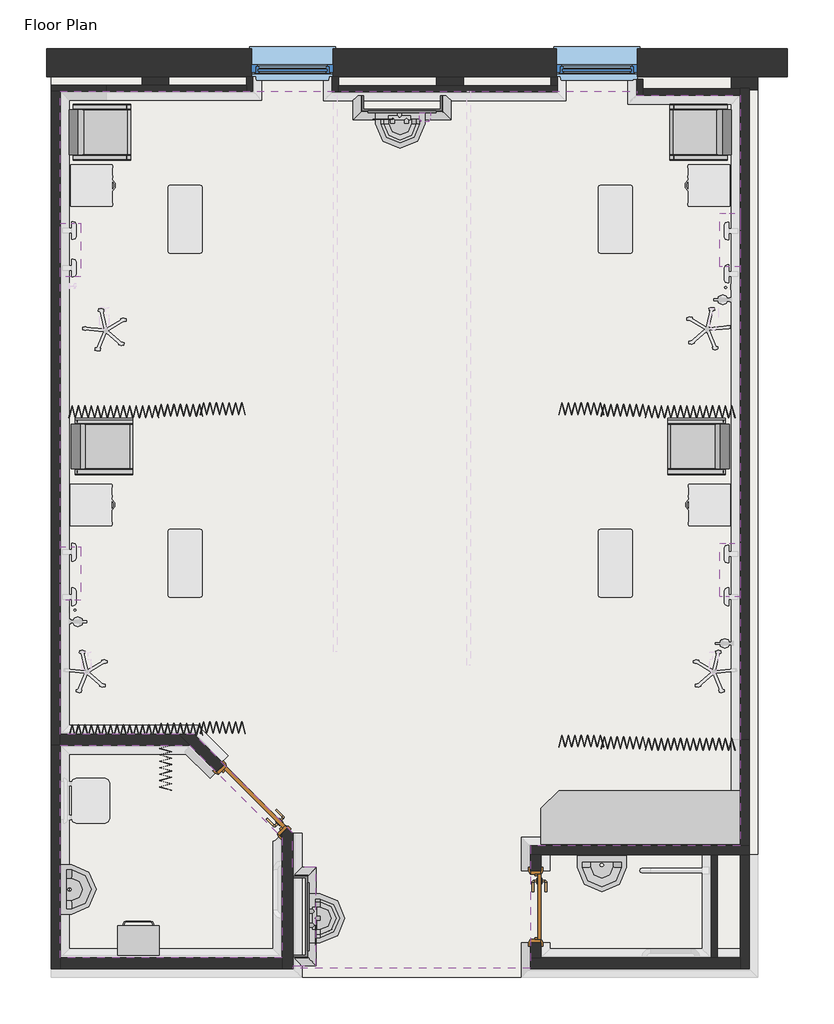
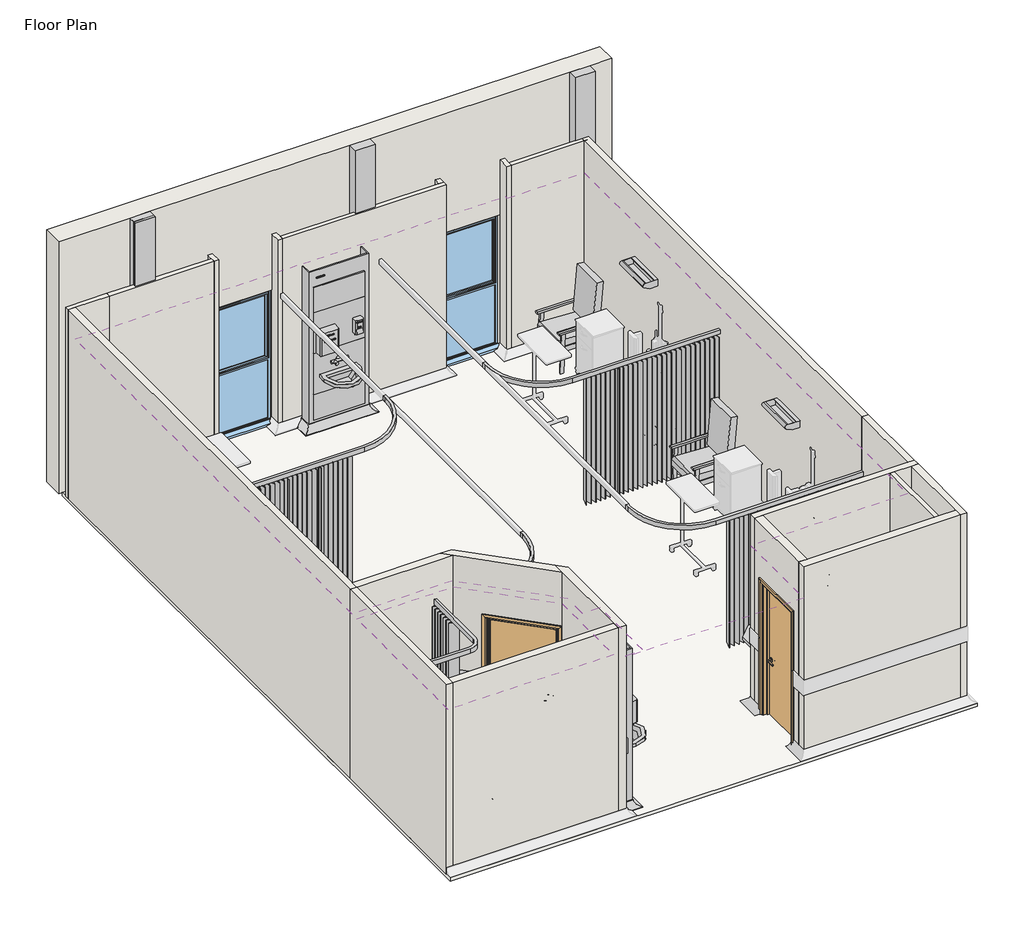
# One storey, part 1 of 3: 22 walls, 16 furniture elements, 6 flow terminals, 4 columns, 4 light fixtures, 2 coverings, 2 doors, 2 windows, 1 slab.
"""IFC4 building model written with IfcOpenShell, lengths in millimetres."""

from ifc_helpers import new_model, si_unit, frame, origin, place, context, project, spatial, polyline, circle_curve, outline, extrude, faceted_brep, transform, mapped, element, save
from ifc_brep_helpers import plane_surface, cylinder_surface, advanced_brep
from components import doors_intsgl_1_1010x2110mm_0e4fc7ca, doors_intsgl_1_810x2110mm_42a51698, flow_terminal_1693ed64, flow_terminal_004a381b, flow_terminal_30861e1c, furniture_5b125ba6, furniture_166ce8d1, furniture_26d36cfe, furniture_53b4b269, furniture_c6a9ce10, furniture_a9c8da33, furniture_eb258ce7, furniture_a4beb444, furniture_01c9675c, nurse_station2_nurse_station_fc5f2db9, type_1_dfacdb5c, windows_composite_910x2110mm_37af9662

model = new_model("IFC4")

# Units and contexts
model_context = context("Model", 3, world=origin())
ifc_project = project(units=[si_unit("LENGTHUNIT", "METRE", prefix="MILLI")], contexts=[model_context])

# Site, building, storey
site = spatial("IfcSite", under=ifc_project)
building = spatial("IfcBuilding", under=site)
storey = spatial("IfcBuildingStorey", under=building, Name="Floor Plan", Elevation=0.0)

# Columns
placement = place(None, origin())
element("IfcColumn", 1, ObjectType="Columns_Rectangular : 300x300", at=placement, inside=storey, context=model_context, shape_type="SweptSolid", body=[
    extrude(outline(polyline([(-25.0704396, 4000.0), (118.6795604, 4000.0), (118.6795604, 0.0), (24.9295604, 0.0), (24.9295604, 3000.0), (-25.0704396, 3000.0), (-25.0704396, 4000.0)])), frame((44398.7297081, 0.0, 0.0), z_axis=(1.0, 0.0, 0.0), x_axis=(0.0, 1.0, 0.0)), (0.0, 0.0, 1.0), 300.0),
])
element("IfcColumn", 2, ObjectType="Columns_Rectangular : 300x300", at=placement, inside=storey, context=model_context, shape_type="SweptSolid", body=[
    extrude(outline(polyline([(-25.0704396, 4000.0), (118.6795604, 4000.0), (118.6795604, 0.0), (18.6795604, 0.0), (18.6795604, 3000.0), (-25.0704396, 3000.0), (-25.0704396, 4000.0)])), frame((47698.7297081, 0.0, 0.0), z_axis=(1.0, 0.0, 0.0), x_axis=(0.0, 1.0, 0.0)), (0.0, 0.0, 1.0), 300.0),
])
element("IfcColumn", 3, ObjectType="Columns_Rectangular : 300x300", at=placement, inside=storey, context=model_context, shape_type="Brep", body=[
    faceted_brep([(50998.7297081, -25.0704396, 4000.0), (51298.7297081, -25.0704396, 4000.0), (51298.7297081, 118.6795604, 4000.0), (50998.7297081, 118.6795604, 4000.0), (51298.7297081, 118.6795604, 0.0), (51298.7297081, -25.0704396, 0.0), (51198.7297081, -25.0704396, 0.0), (51198.7297081, -9.3204396, 0.0), (51098.7297081, -9.3204396, 0.0), (51098.7297081, -18.3204396, 0.0), (50998.7297081, -18.3204396, 0.0), (50998.7297081, 118.6795604, 0.0), (50998.7297081, -18.3204396, 3000.0), (50998.7297081, -25.0704396, 3000.0), (51098.7297081, -25.0704396, 3000.0), (51148.7297081, -25.0704396, 3000.0), (51198.7297081, -25.0704396, 3000.0), (51098.7297081, -18.3204396, 3000.0), (51148.7297081, -18.3204396, 3000.0), (51098.7297081, -9.3204396, 3000.0), (51198.7297081, -9.3204396, 3000.0)], [[[0, 1, 2, 3]], [[4, 5, 6, 7, 8, 9, 10, 11]], [[0, 3, 11, 10, 12, 13]], [[1, 0, 13, 14, 15, 16, 6, 5]], [[1, 5, 4, 2]], [[3, 2, 4, 11]], [[12, 10, 9, 17]], [[13, 12, 17, 18, 15, 14]], [[8, 19, 17, 9]], [[20, 7, 6, 16]], [[19, 20, 16, 15, 18, 17]], [[19, 8, 7, 20]]]),
])
element("IfcColumn", 4, ObjectType="Columns_Rectangular : 300x300", at=placement, inside=storey, context=model_context, shape_type="SweptSolid", body=[
    extrude(outline(polyline([(14.9295604, 4000.0), (118.6795604, 4000.0), (118.6795604, 0.0), (24.9295604, 0.0), (24.9295604, 3000.0), (14.9295604, 3000.0), (14.9295604, 4000.0)])), frame((44398.7297081, 0.0, 0.0), z_axis=(1.0, 0.0, 0.0), x_axis=(0.0, 1.0, 0.0)), (0.0, 0.0, 1.0), 300.0),
])

# Coverings
element("IfcCovering", 5, ObjectType="BIMHealth - Generic Ceiling", at=placement, inside=storey, context=model_context, shape_type="SweptSolid", body=[
    extrude(outline(polyline([(49939.4797081, -43.5704396), (49939.4797081, -86.8204396), (51098.7297081, -86.8204396), (51098.7297081, -8493.5704396), (48747.9797081, -8493.5704396), (48747.9797081, -9865.0704396), (46088.6832264, -9865.0704396), (46088.6832264, -9833.5704396), (46350.6832264, -9833.5704396), (46350.6832264, -8733.5704396), (46082.6832264, -8733.5704396), (46082.6832264, -8345.1569657), (44981.0967003, -7243.5704396), (43483.6832264, -7243.5704396), (43483.6832264, -43.5704396), (49939.4797081, -43.5704396)])), frame((0.0, 0.0, 2500.0), z_axis=(0.0, 0.0, 1.0), x_axis=(1.0, 0.0, 0.0)), (0.0, 0.0, 1.0), 52.0),
])
element("IfcCovering", 6, ObjectType="BIMHealth - Generic Ceiling", at=placement, inside=storey, context=model_context, shape_type="SweptSolid", body=[
    extrude(outline(polyline([(44930.7697525, -7365.0704396), (45967.1832264, -8401.4839135), (45967.1832264, -9743.5704396), (43483.6832264, -9743.5704396), (43483.6832264, -7365.0704396), (44930.7697525, -7365.0704396)])), frame((0.0, 0.0, 2500.0), z_axis=(0.0, 0.0, 1.0), x_axis=(1.0, 0.0, 0.0)), (0.0, 0.0, 1.0), 52.0),
    extrude(outline(polyline([(50774.4797081, -8593.5704396), (50774.4797081, -9743.5704396), (48869.4797081, -9743.5704396), (48869.4797081, -8593.5704396), (50774.4797081, -8593.5704396)])), frame((0.0, 0.0, 2500.0), z_axis=(0.0, 0.0, 1.0), x_axis=(1.0, 0.0, 0.0)), (0.0, 0.0, 1.0), 52.0),
])

# Doors
doors_intsgl_1_1010x2110mm_shape = doors_intsgl_1_1010x2110mm_0e4fc7ca(model_context)
element("IfcDoor", 7, ObjectType="Doors_IntSgl_1 : 1010x2110mm", at=placement, inside=storey, context=model_context, shape_type="MappedRepresentation", body=[
    mapped(doors_intsgl_1_1010x2110mm_shape, transform((45630.0626219, -7978.4498351, 0.0), x_axis=(-0.7071067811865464, 0.7071067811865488, 0.0), y_axis=(-0.7071067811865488, -0.7071067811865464, 0.0), z_axis=(0.0, 0.0, 1.0))),
])
doors_intsgl_1_810x2110mm_shape = doors_intsgl_1_810x2110mm_42a51698(model_context)
element("IfcDoor", 8, ObjectType="Doors_IntSgl_1 : 810x2110mm", at=placement, inside=storey, context=model_context, shape_type="MappedRepresentation", body=[
    mapped(doors_intsgl_1_810x2110mm_shape, transform((48808.7297081, -9173.9454396, 0.0), x_axis=(0.0, -1.0, 0.0), y_axis=(1.0, 0.0, 0.0), z_axis=(0.0, 0.0, 1.0))),
])

# Flow terminals
flow_terminal_shape = flow_terminal_1693ed64(model_context)
element("IfcFlowTerminal", 9, ObjectType="BHMS_wash basin-LOD01 : BHMS_wash basin-LOD01", at=placement, inside=storey, context=model_context, shape_type="MappedRepresentation", body=[
    mapped(flow_terminal_shape, transform((47010.3945866, -282.8204396, 700.0), x_axis=(1.0, 0.0, 0.0), y_axis=(0.0, 1.0, 0.0), z_axis=(0.0, 0.0, 1.0))),
])
element("IfcFlowTerminal", 10, ObjectType="BHMS_wash basin-LOD01 : BHMS_wash basin-LOD01", at=placement, inside=storey, context=model_context, shape_type="MappedRepresentation", body=[
    mapped(flow_terminal_shape, transform((46268.6832264, -9583.5704396, 700.0), x_axis=(0.0, 1.0, 0.0), y_axis=(-1.0, 0.0, 0.0), z_axis=(0.0, 0.0, 1.0))),
])
flow_terminal_2_shape = flow_terminal_004a381b(model_context)
element("IfcFlowTerminal", 11, ObjectType="BIMHealth-Taps_IPS-LOD2A-v1 : BIMHealth-Taps_IPS-LOD2A-v1", at=placement, inside=storey, context=model_context, shape_type="MappedRepresentation", body=[
    mapped(flow_terminal_2_shape, transform((47158.7297081, -339.8204396, 1022.0), x_axis=(1.0, 0.0, 0.0), y_axis=(0.0, 1.0, 0.0), z_axis=(0.0, 0.0, 1.0))),
])
element("IfcFlowTerminal", 12, ObjectType="BIMHealth-Taps_IPS-LOD2A-v1 : BIMHealth-Taps_IPS-LOD2A-v1", at=placement, inside=storey, context=model_context, shape_type="MappedRepresentation", body=[
    mapped(flow_terminal_2_shape, transform((46333.6260723, -9177.9702052, 1050.0), x_axis=(0.0, -1.0, 0.0), y_axis=(1.0, 0.0, 0.0), z_axis=(0.0, 0.0, 1.0))),
])
flow_terminal_3_shape = flow_terminal_30861e1c(model_context)
element("IfcFlowTerminal", 13, ObjectType="BIMHealth-Wash_basin_Doc_M-LOD2A-v1 : BIMHealth-Wash_basin_Doc_M-LOD2A-v1", at=placement, inside=storey, context=model_context, shape_type="MappedRepresentation", body=[
    mapped(flow_terminal_3_shape, transform((43483.6832264, -9255.0704396, 450.0), x_axis=(0.0, 1.0, 0.0), y_axis=(-1.0, 0.0, 0.0), z_axis=(0.0, 0.0, 1.0))),
])
element("IfcFlowTerminal", 14, ObjectType="BIMHealth-Wash_basin_Doc_M-LOD2A-v1 : BIMHealth-Wash_basin_Doc_M-LOD2A-v1", at=placement, inside=storey, context=model_context, shape_type="MappedRepresentation", body=[
    mapped(flow_terminal_3_shape, transform((49274.4797081, -8604.3204396, 450.0), x_axis=(1.0, 0.0, 0.0), y_axis=(0.0, 1.0, 0.0), z_axis=(0.0, 0.0, 1.0))),
])

# Furniture
furniture_shape = furniture_5b125ba6(model_context)
element("IfcFurniture", 15, ObjectType="BIMHealth-Chair_High_Back-LOD2A-v1 : BIMHealth-Chair_High_Back-LOD2A-v1", at=placement, inside=storey, context=model_context, shape_type="MappedRepresentation", body=[
    mapped(furniture_shape, transform((50978.7297081, -3726.7326301, 0.0), x_axis=(0.0, -1.0, 0.0), y_axis=(1.0, 0.0, 0.0), z_axis=(0.0, 0.0, 1.0))),
])
element("IfcFurniture", 16, ObjectType="BIMHealth-Chair_High_Back-LOD2A-v1 : BIMHealth-Chair_High_Back-LOD2A-v1", at=placement, inside=storey, context=model_context, shape_type="MappedRepresentation", body=[
    mapped(furniture_shape, transform((50998.7297081, -208.5704396, 0.0), x_axis=(0.0, -1.0, 0.0), y_axis=(1.0, 0.0, 0.0), z_axis=(0.0, 0.0, 1.0))),
])
furniture_2_shape = furniture_166ce8d1(model_context)
element("IfcFurniture", 17, ObjectType="BIMHealth-Paper_Towel_Dispenser-LOD2A-v1 : BIMHealth-Paper_Towel_Dispenser-LOD2A-v1", at=placement, inside=storey, context=model_context, shape_type="MappedRepresentation", body=[
    mapped(furniture_2_shape, transform((46959.474826, -282.8204396, 20.0), x_axis=(1.0, 0.0, 0.0), y_axis=(0.0, 1.0, 0.0), z_axis=(0.0, 0.0, 1.0))),
])
element("IfcFurniture", 18, ObjectType="BIMHealth-Paper_Towel_Dispenser-LOD2A-v1 : BIMHealth-Paper_Towel_Dispenser-LOD2A-v1", at=placement, inside=storey, context=model_context, shape_type="MappedRepresentation", body=[
    mapped(furniture_2_shape, transform((46268.6832264, -9634.4902002, 20.0), x_axis=(0.0, 1.0, 0.0), y_axis=(-1.0, 0.0, 0.0), z_axis=(0.0, 0.0, 1.0))),
])
furniture_3_shape = furniture_26d36cfe(model_context)
element("IfcFurniture", 19, ObjectType="BIMHealth-Soap_Dispenser-LOD2A-v1 : BIMHealth-Soap_Dispenser-LOD2A-v1", at=placement, inside=storey, context=model_context, shape_type="MappedRepresentation", body=[
    mapped(furniture_3_shape, transform((47507.4337872, -282.8204396, 150.0), x_axis=(1.0, 0.0, 0.0), y_axis=(0.0, 1.0, 0.0), z_axis=(0.0, 0.0, 1.0))),
])
furniture_4_shape = furniture_53b4b269(model_context)
element("IfcFurniture", 20, ObjectType="BIMHealth-Curtain_Bed-LOD2A-v1 : BIMHealth-Curtain_Bed-LOD2A-v1", at=placement, inside=storey, context=model_context, shape_type="MappedRepresentation", body=[
    mapped(furniture_4_shape, transform((43483.6832264, -3643.5704396, 0.0), x_axis=(1.0, 0.0, 0.0), y_axis=(0.0, 1.0, 0.0), z_axis=(0.0, 0.0, 1.0))),
])
element("IfcFurniture", 21, ObjectType="BIMHealth-Curtain_Bed-LOD2A-v1 : BIMHealth-Curtain_Bed-LOD2A-v1", at=placement, inside=storey, context=model_context, shape_type="MappedRepresentation", body=[
    mapped(furniture_4_shape, transform((43483.6832264, -7214.0368461, 0.0), x_axis=(1.0, 0.0, 0.0), y_axis=(0.0, 1.0, 0.0), z_axis=(0.0, 0.0, 1.0))),
])
furniture_5_shape = furniture_c6a9ce10(model_context)
element("IfcFurniture", 22, ObjectType="BIMHealth-Bin_Clinical_Foot_Operated-LOD2A-v1 : BIMHealth-Bin_Clinical_Foot_Operated-LOD2A-v1", at=placement, inside=storey, context=model_context, shape_type="MappedRepresentation", body=[
    mapped(furniture_5_shape, transform((44577.9332264, -9714.5704396, 0.0), x_axis=(-1.0, 0.0, 0.0), y_axis=(0.0, -1.0, 0.0), z_axis=(0.0, 0.0, 1.0))),
])
furniture_6_shape = furniture_a9c8da33(model_context)
element("IfcFurniture", 23, ObjectType="BIMHealth-Curtain_Doc_M-LOD2A-v1 : BIMHealth-Curtain_Doc_M-LOD2A-v1", at=placement, inside=storey, context=model_context, shape_type="MappedRepresentation", body=[
    mapped(furniture_6_shape, transform((44683.6832264, -7365.0704396, 0.0), x_axis=(0.0, -1.0, 0.0), y_axis=(1.0, 0.0, 0.0), z_axis=(0.0, 0.0, 1.0))),
])
furniture_7_shape = furniture_eb258ce7(model_context)
element("IfcFurniture", 24, ObjectType="BIMHealth-Washstation-LOD2A-v2 : BIMHealth-Washstation-LOD2A-v1 2", at=placement, inside=storey, context=model_context, shape_type="MappedRepresentation", body=[
    mapped(furniture_7_shape, transform((47760.3945866, -96.8204396, 0.0), x_axis=(1.0, 0.0, 0.0), y_axis=(0.0, 1.0, 0.0), z_axis=(0.0, 0.0, 1.0))),
])
element("IfcFurniture", 25, ObjectType="BIMHealth-Washstation-LOD2A-v2 : BIMHealth-Washstation-LOD2A-v1 2", at=placement, inside=storey, context=model_context, shape_type="MappedRepresentation", body=[
    mapped(furniture_7_shape, transform((46082.6832264, -8833.5704396, 0.0), x_axis=(0.0, 1.0, 0.0), y_axis=(-1.0, 0.0, 0.0), z_axis=(0.0, 0.0, 1.0))),
])
furniture_8_shape = furniture_a4beb444(model_context)
element("IfcFurniture", 26, ObjectType="BIMHealth-Curtain_Bed-LOD2A-v1 : BHMS_Bed curtains", at=placement, inside=storey, context=model_context, shape_type="MappedRepresentation", body=[
    mapped(furniture_8_shape, transform((51137.1059467, -3643.5704396, 0.0), x_axis=(-1.0, 0.0, 0.0), y_axis=(0.0, -1.0, 0.0), z_axis=(0.0, 0.0, 1.0))),
])
element("IfcFurniture", 27, ObjectType="BIMHealth-Curtain_Bed-LOD2A-v1 : BIMHealth-Curtain_Bed-LOD2A-v1", at=placement, inside=storey, context=model_context, shape_type="MappedRepresentation", body=[
    mapped(furniture_8_shape, transform((51137.1059467, -7365.0704396, 0.0), x_axis=(-1.0, 0.0, 0.0), y_axis=(0.0, -1.0, 0.0), z_axis=(0.0, 0.0, 1.0))),
])
furniture_9_shape = furniture_01c9675c(model_context)
element("IfcFurniture", 28, ObjectType="BIMHealth-Chair_High_Back-LOD2A-v1 : BIMHealth-Chair_High_Back-LOD2A-v1", at=placement, inside=storey, context=model_context, shape_type="MappedRepresentation", body=[
    mapped(furniture_9_shape, transform((43583.6832264, -208.5704396, 0.0), x_axis=(0.0, -1.0, 0.0), y_axis=(1.0, 0.0, 0.0), z_axis=(0.0, 0.0, 1.0))),
])
element("IfcFurniture", 29, ObjectType="BIMHealth-Chair_High_Back-LOD2A-v1 : BIMHealth-Chair_High_Back-LOD2A-v1", at=placement, inside=storey, context=model_context, shape_type="MappedRepresentation", body=[
    mapped(furniture_9_shape, transform((43604.4012667, -3726.7326301, 0.0), x_axis=(0.0, -1.0, 0.0), y_axis=(1.0, 0.0, 0.0), z_axis=(0.0, 0.0, 1.0))),
])
nurse_station2_nurse_station_shape = nurse_station2_nurse_station_fc5f2db9(model_context)
element("IfcFurniture", 30, ObjectType="Nurse Station2 : Nurse Station", at=placement, inside=storey, context=model_context, shape_type="MappedRepresentation", body=[
    mapped(nurse_station2_nurse_station_shape, transform((0.0, 0.0, 0.0), x_axis=(1.0, 0.0, 0.0), y_axis=(0.0, 1.0, 0.0), z_axis=(0.0, 0.0, 1.0))),
])

# Light fixtures
type_1_shape = type_1_dfacdb5c(model_context)
element("IfcLightFixture", 31, ObjectType="BIMHealth-Lighting-Bed_Luminaire-LOD2A-v1 : Type 1", at=placement, inside=storey, context=model_context, shape_type="MappedRepresentation", body=[
    mapped(type_1_shape, transform((43433.6832264, -1698.5704396, 65.8416905), x_axis=(0.0, -1.0, 0.0), y_axis=(1.0, 0.0, 0.0), z_axis=(0.0, 0.0, 1.0))),
])
element("IfcLightFixture", 32, ObjectType="BIMHealth-Lighting-Bed_Luminaire-LOD2A-v1 : Type 1", at=placement, inside=storey, context=model_context, shape_type="MappedRepresentation", body=[
    mapped(type_1_shape, transform((43433.6832264, -5318.5704396, 65.8416905), x_axis=(0.0, -1.0, 0.0), y_axis=(1.0, 0.0, 0.0), z_axis=(0.0, 0.0, 1.0))),
])
element("IfcLightFixture", 33, ObjectType="BIMHealth-Lighting-Bed_Luminaire-LOD2A-v1 : Type 1", at=placement, inside=storey, context=model_context, shape_type="MappedRepresentation", body=[
    mapped(type_1_shape, transform((51148.7297081, -1834.3204396, 65.8416905), x_axis=(0.0, 1.0, 0.0), y_axis=(-1.0, 0.0, 0.0), z_axis=(0.0, 0.0, 1.0))),
])
element("IfcLightFixture", 34, ObjectType="BIMHealth-Lighting-Bed_Luminaire-LOD2A-v1 : Type 1", at=placement, inside=storey, context=model_context, shape_type="MappedRepresentation", body=[
    mapped(type_1_shape, transform((51148.7297081, -5529.3204396, 65.8416905), x_axis=(0.0, 1.0, 0.0), y_axis=(-1.0, 0.0, 0.0), z_axis=(0.0, 0.0, 1.0))),
])

# Slab
element("IfcSlab", 35, ObjectType="BIMHealth - Generic Floor", at=placement, inside=storey, context=model_context, shape_type="SweptSolid", body=[
    extrude(outline(polyline([(51298.7297081, 118.6795604), (51298.7297081, -9965.0704396), (43383.6832264, -9965.0704396), (43383.6832264, 118.6795604), (51298.7297081, 118.6795604)])), frame((0.0, 0.0, -52.0), z_axis=(0.0, 0.0, 1.0), x_axis=(1.0, 0.0, 0.0)), (0.0, 0.0, 1.0), 52.0),
])

# Walls
element("IfcWall", 36, ObjectType="BHMS02A- Partn50-vinyl sktg1 side", at=placement, inside=storey, context=model_context, shape_type="Brep", body=[
    faceted_brep([(43998.7297081, -43.5704396, 0.0), (45569.4797081, -43.5704396, 0.0), (45569.4797081, -43.5704396, 100.0), (45569.4797081, -43.5704396, 3000.0), (43998.7297081, -43.5704396, 3000.0), (43998.7297081, -43.5704396, 100.0), (45569.4797081, 24.9295604, 0.0), (44698.7297081, 24.9295604, 0.0), (44398.7297081, 24.9295604, 0.0), (43998.7297081, 24.9295604, 0.0), (43998.7297081, 24.9295604, 3000.0), (44398.7297081, 24.9295604, 3000.0), (44698.7297081, 24.9295604, 3000.0), (45569.4797081, 24.9295604, 3000.0)], [[[0, 1, 2, 3, 4, 5]], [[6, 7, 8, 9, 10, 11, 12, 13]], [[1, 0, 9, 8, 7, 6]], [[4, 3, 13, 12, 11, 10]], [[10, 9, 0, 5, 4]], [[1, 6, 13, 3, 2]]]),
])
element("IfcWall", 37, ObjectType="BHMS02A- Partn50-vinyl sktg1 side", at=placement, inside=storey, context=model_context, shape_type="Brep", body=[
    faceted_brep([(45569.4797081, 118.6795604, 0.0), (45569.4797081, 24.9295604, 0.0), (45569.4797081, -43.5704396, 0.0), (45569.4797081, -43.5704396, 100.0), (45569.4797081, -43.5704396, 3000.0), (45569.4797081, 24.9295604, 3000.0), (45569.4797081, 118.6795604, 3000.0), (45637.9797081, -43.5704396, 0.0), (45637.9797081, 118.6795604, 0.0), (45637.9797081, 118.6795604, 100.0), (45637.9797081, 118.6795604, 3000.0), (45637.9797081, -43.5704396, 3000.0), (45637.9797081, -43.5704396, 100.0), (45628.7297081, 118.6795604, 0.0)], [[[0, 1, 2, 3, 4, 5, 6]], [[7, 8, 9, 10, 11, 12]], [[2, 1, 0, 13, 8, 7]], [[6, 5, 4, 11, 10]], [[2, 7, 12, 11, 4, 3]], [[0, 6, 10, 9, 8, 13]]]),
])
element("IfcWall", 38, ObjectType="BHMS02A- Partn50-vinyl sktg1 side", at=placement, inside=storey, context=model_context, shape_type="Brep", body=[
    faceted_brep([(46529.4797081, 118.6795604, 0.0), (46529.4797081, -49.8204396, 0.0), (46529.4797081, -49.8204396, 100.0), (46529.4797081, -49.8204396, 3000.0), (46529.4797081, 118.6795604, 3000.0), (46529.4797081, 118.6795604, 100.0), (46597.9797081, -49.8204396, 0.0), (46597.9797081, 18.6795604, 0.0), (46597.9797081, 118.6795604, 0.0), (46597.9797081, 118.6795604, 3000.0), (46597.9797081, 18.6795604, 3000.0), (46597.9797081, -49.8204396, 3000.0), (46597.9797081, -49.8204396, 100.0), (46538.7297081, 118.6795604, 0.0)], [[[0, 1, 2, 3, 4, 5]], [[6, 7, 8, 9, 10, 11, 12]], [[1, 0, 13, 8, 7, 6]], [[4, 3, 11, 10, 9]], [[1, 6, 12, 11, 3, 2]], [[4, 9, 8, 13, 0, 5]]]),
])
element("IfcWall", 39, ObjectType="BHMS02A- Partn50-vinyl sktg1 side", at=placement, inside=storey, context=model_context, shape_type="Brep", body=[
    faceted_brep([(46597.9797081, -49.8204396, 0.0), (49049.3271707, -49.8204396, 0.0), (49049.3271707, -49.8204396, 100.0), (49049.3271707, -49.8204396, 3000.0), (46597.9797081, -49.8204396, 3000.0), (46597.9797081, -49.8204396, 100.0), (49049.3271707, 18.6795604, 0.0), (48980.8271707, 18.6795604, 0.0), (47998.7297081, 18.6795604, 0.0), (47698.7297081, 18.6795604, 0.0), (46597.9797081, 18.6795604, 0.0), (46597.9797081, 18.6795604, 3000.0), (47698.7297081, 18.6795604, 3000.0), (47998.7297081, 18.6795604, 3000.0), (48980.8271707, 18.6795604, 3000.0), (49049.3271707, 18.6795604, 3000.0), (49049.3271707, 18.6795604, 100.0)], [[[0, 1, 2, 3, 4, 5]], [[6, 7, 8, 9, 10, 11, 12, 13, 14, 15, 16]], [[1, 0, 10, 9, 8, 7, 6]], [[4, 3, 15, 14, 13, 12, 11]], [[4, 11, 10, 0, 5]], [[1, 6, 16, 15, 3, 2]]]),
])
element("IfcWall", 40, ObjectType="BHMS02A- Partn50-vinyl sktg1 side", at=placement, inside=storey, context=model_context, shape_type="Brep", body=[
    faceted_brep([(49049.3271707, 18.6795604, 0.0), (49049.3271707, 118.6795604, 0.0), (49049.3271707, 118.6795604, 100.0), (49049.3271707, 118.6795604, 3000.0), (49049.3271707, 18.6795604, 3000.0), (49049.3271707, 18.6795604, 100.0), (48980.8271707, 118.6795604, 0.0), (48980.8271707, 18.6795604, 0.0), (48980.8271707, 18.6795604, 3000.0), (48980.8271707, 118.6795604, 3000.0), (49038.7297081, 118.6795604, 0.0)], [[[0, 1, 2, 3, 4, 5]], [[6, 7, 8, 9]], [[1, 0, 7, 6, 10]], [[4, 3, 9, 8]], [[4, 8, 7, 0, 5]], [[1, 10, 6, 9, 3, 2]]]),
])
element("IfcWall", 41, ObjectType="BHMS02A- Partn50-vinyl sktg1 side", at=placement, inside=storey, context=model_context, shape_type="Brep", body=[
    faceted_brep([(49939.4797081, 87.4295604, 0.0), (49939.4797081, -86.8204396, 0.0), (49939.4797081, -86.8204396, 100.0), (49939.4797081, -86.8204396, 3000.0), (49939.4797081, 87.4295604, 3000.0), (49939.4797081, 87.4295604, 100.0), (50007.9797081, -86.8204396, 0.0), (50007.9797081, -18.3204396, 0.0), (50007.9797081, 87.4295604, 0.0), (50007.9797081, 87.4295604, 3000.0), (50007.9797081, -18.3204396, 3000.0), (50007.9797081, -86.8204396, 3000.0), (50007.9797081, -86.8204396, 100.0)], [[[0, 1, 2, 3, 4, 5]], [[6, 7, 8, 9, 10, 11, 12]], [[1, 0, 8, 7, 6]], [[4, 3, 11, 10, 9]], [[9, 8, 0, 5, 4]], [[1, 6, 12, 11, 3, 2]]]),
])
element("IfcWall", 42, ObjectType="BHMS02A- Partn50-vinyl sktg1 side", at=placement, inside=storey, context=model_context, shape_type="Brep", body=[
    faceted_brep([(50007.9797081, -86.8204396, 0.0), (51148.7297081, -86.8204396, 0.0), (51148.7297081, -86.8204396, 100.0), (51148.7297081, -86.8204396, 3000.0), (50007.9797081, -86.8204396, 3000.0), (50007.9797081, -86.8204396, 100.0), (51148.7297081, -18.3204396, 0.0), (51098.7297081, -18.3204396, 0.0), (50998.7297081, -18.3204396, 0.0), (50007.9797081, -18.3204396, 0.0), (50007.9797081, -18.3204396, 3000.0), (50998.7297081, -18.3204396, 3000.0), (51098.7297081, -18.3204396, 3000.0), (51148.7297081, -18.3204396, 3000.0)], [[[0, 1, 2, 3, 4, 5]], [[6, 7, 8, 9, 10, 11, 12, 13]], [[1, 0, 9, 8, 7, 6]], [[6, 13, 3, 2, 1]], [[4, 3, 13, 12, 11, 10]], [[4, 10, 9, 0, 5]]]),
])
element("IfcWall", 43, ObjectType="BHMS02A- Partn50-vinyl sktg1 side", at=placement, inside=storey, context=model_context, shape_type="Brep", body=[
    faceted_brep([(43998.7297081, 24.9295604, 0.0), (43383.6832264, 24.9295604, 0.0), (43383.6832264, 24.9295604, 3000.0), (43998.7297081, 24.9295604, 3000.0), (43998.7297081, -43.5704396, 0.0), (43998.7297081, -43.5704396, 100.0), (43998.7297081, -43.5704396, 3000.0), (43483.6832264, -43.5704396, 3000.0), (43383.6832264, -43.5704396, 3000.0), (43383.6832264, -43.5704396, 0.0), (43483.6832264, -43.5704396, 0.0)], [[[0, 1, 2, 3]], [[4, 5, 6, 7, 8, 9, 10]], [[1, 0, 4, 10, 9]], [[3, 2, 8, 7, 6]], [[0, 3, 6, 5, 4]], [[2, 1, 9, 8]]]),
])
element("IfcWall", 44, ObjectType="BHMS05-FR30_ Partn70 plastic int-vnyl sktg-1 bmp rail", at=placement, inside=storey, context=model_context, shape_type="Brep", body=[
    faceted_brep([(43483.6832264, -7365.0704396, 0.0), (44930.7697525, -7365.0704396, 0.0), (44930.7697525, -7365.0704396, 3000.0), (43483.6832264, -7365.0704396, 3000.0), (44809.2697525, -7243.5704396, 0.0), (43483.6832264, -7243.5704396, 0.0), (43483.6832264, -7243.5704396, 100.0), (43483.6832264, -7243.5704396, 965.0), (43483.6832264, -7243.5704396, 1200.0), (43483.6832264, -7243.5704396, 3000.0), (44809.2697525, -7243.5704396, 3000.0), (44809.2697525, -7243.5704396, 100.0)], [[[0, 1, 2, 3]], [[4, 5, 6, 7, 8, 9, 10, 11]], [[1, 0, 5, 4]], [[3, 2, 10, 9]], [[0, 3, 9, 8, 7, 6, 5]], [[2, 1, 4, 11, 10]]]),
])
element("IfcWall", 45, ObjectType="BHMS05-FR30_ Partn70 plastic int-vnyl sktg-1 bmp rail", at=placement, inside=storey, context=model_context, shape_type="Brep", body=[
    faceted_brep([(45967.1832264, -9865.0704396, 3000.0), (45967.1832264, -9743.5704396, 3000.0), (45967.1832264, -8401.4839135, 3000.0), (45967.1832264, -8229.6569657, 3000.0), (45967.1832264, -8229.6569657, 2110.0), (45967.1832264, -8355.5070796, 2110.0), (45967.1832264, -8355.5070796, 0.0), (45967.1832264, -8401.4839135, 0.0), (45967.1832264, -9743.5704396, 0.0), (45967.1832264, -9865.0704396, 0.0), (45967.1832264, -9865.0704396, 100.0), (46088.6832264, -9865.0704396, 0.0), (46088.6832264, -8351.1569657, 0.0), (46088.6832264, -8351.1569657, 100.0), (46088.6832264, -8351.1569657, 3000.0), (46088.6832264, -9865.0704396, 3000.0), (46088.6832264, -9865.0704396, 1200.0), (46088.6832264, -9865.0704396, 965.0), (46088.6832264, -9865.0704396, 100.0), (46030.1082834, -8292.5820227, 0.0), (46030.1082834, -8292.5820227, 2110.0)], [[[0, 1, 2, 3, 4, 5, 6, 7, 8, 9, 10]], [[11, 12, 13, 14, 15, 16, 17, 18]], [[12, 11, 9, 8, 7, 6, 19]], [[3, 2, 1, 0, 15, 14]], [[3, 14, 13, 12, 19, 20, 4]], [[20, 5, 4]], [[5, 20, 19, 6]], [[9, 11, 18, 17, 16, 15, 0, 10]]]),
])
element("IfcWall", 46, ObjectType="BHMS05-FR30_ Partn70 plastic int-vnyl sktg-1 bmp rail", at=placement, inside=storey, context=model_context, shape_type="Brep", body=[
    faceted_brep([(44981.0967003, -7243.5704396, 3000.0), (45967.1832264, -8229.6569657, 3000.0), (45967.1832264, -8229.6569657, 2110.0), (45315.9304344, -7578.4041737, 2110.0), (45315.9304344, -7578.4041737, 0.0), (45291.181697, -7553.6554363, 0.0), (44981.0967003, -7243.5704396, 0.0), (44981.0967003, -7243.5704396, 100.0), (45967.1832264, -8401.4839135, 3000.0), (44930.7697525, -7365.0704396, 3000.0), (44809.2697525, -7243.5704396, 3000.0), (44809.2697525, -7243.5704396, 100.0), (44809.2697525, -7243.5704396, 0.0), (44930.7697525, -7365.0704396, 0.0), (45230.0169605, -7664.3176476, 0.0), (45230.0169605, -7664.3176476, 100.0), (45230.0169605, -7664.3176476, 965.0), (45230.0169605, -7664.3176476, 1200.0), (45230.0169605, -7664.3176476, 2110.0), (45944.1948095, -8378.4954966, 2110.0), (45944.1948095, -8378.4954966, 1200.0), (45944.1948095, -8378.4954966, 965.0), (45944.1948095, -8378.4954966, 100.0), (45944.1948095, -8378.4954966, 0.0), (45967.1832264, -8401.4839135, 0.0), (45967.1832264, -8401.4839135, 965.0), (45967.1832264, -8401.4839135, 1200.0), (45967.1832264, -8355.5070796, 0.0), (45967.1832264, -8355.5070796, 2110.0)], [[[0, 1, 2, 3, 4, 5, 6, 7]], [[8, 9, 10, 11, 12, 13, 14, 15, 16, 17, 18, 19, 20, 21, 22, 23, 24, 25, 26]], [[23, 27, 24]], [[14, 13, 12, 6, 5, 4]], [[1, 0, 10, 9, 8]], [[4, 3, 18, 17, 16, 15, 14]], [[28, 19, 18, 3, 2]], [[19, 28, 27, 23, 22, 21, 20]], [[1, 8, 26, 25, 24, 27, 28, 2]], [[6, 12, 11, 10, 0, 7]]]),
])
element("IfcWall", 47, ObjectType="BHMS05-FR30_ Partn70 plastic int-vnyl sktg-1 bmp rail", at=placement, inside=storey, context=model_context, shape_type="Brep", body=[
    faceted_brep([(48747.9797081, -9865.0704396, 0.0), (51098.7297081, -9865.0704396, 0.0), (51098.7297081, -9865.0704396, 100.0), (51098.7297081, -9865.0704396, 965.0), (51098.7297081, -9865.0704396, 1200.0), (51098.7297081, -9865.0704396, 3000.0), (48747.9797081, -9865.0704396, 3000.0), (48747.9797081, -9865.0704396, 1200.0), (48747.9797081, -9865.0704396, 965.0), (48747.9797081, -9865.0704396, 100.0), (51098.7297081, -9743.5704396, 0.0), (50842.9797081, -9743.5704396, 0.0), (50774.4797081, -9743.5704396, 0.0), (48869.4797081, -9743.5704396, 0.0), (48747.9797081, -9743.5704396, 0.0), (48747.9797081, -9743.5704396, 100.0), (48747.9797081, -9743.5704396, 965.0), (48747.9797081, -9743.5704396, 1200.0), (48747.9797081, -9743.5704396, 3000.0), (48869.4797081, -9743.5704396, 3000.0), (50774.4797081, -9743.5704396, 3000.0), (50842.9797081, -9743.5704396, 3000.0), (51098.7297081, -9743.5704396, 3000.0), (51098.7297081, -9743.5704396, 100.0)], [[[0, 1, 2, 3, 4, 5, 6, 7, 8, 9]], [[10, 11, 12, 13, 14, 15, 16, 17, 18, 19, 20, 21, 22, 23]], [[1, 0, 14, 13, 12, 11, 10]], [[6, 5, 22, 21, 20, 19, 18]], [[6, 18, 17, 16, 15, 14, 0, 9, 8, 7]], [[1, 10, 23, 22, 5, 4, 3, 2]]]),
])
element("IfcWall", 48, ObjectType="BHMS05-FR30_ Partn70 plastic int-vnyl sktg-1 bmp rail", at=placement, inside=storey, context=model_context, shape_type="Brep", body=[
    faceted_brep([(48869.4797081, -8593.5704396, 3000.0), (48869.4797081, -9743.5704396, 3000.0), (48869.4797081, -9743.5704396, 0.0), (48869.4797081, -9578.9454396, 0.0), (48869.4797081, -9578.9454396, 100.0), (48869.4797081, -9578.9454396, 2110.0), (48869.4797081, -8768.9454396, 2110.0), (48869.4797081, -8768.9454396, 100.0), (48869.4797081, -8768.9454396, 0.0), (48869.4797081, -8593.5704396, 0.0), (48869.4797081, -8593.5704396, 100.0), (48747.9797081, -9743.5704396, 3000.0), (48747.9797081, -8593.5704396, 3000.0), (48747.9797081, -8593.5704396, 1200.0), (48747.9797081, -8593.5704396, 965.0), (48747.9797081, -8593.5704396, 100.0), (48747.9797081, -8593.5704396, 0.0), (48747.9797081, -8768.9454396, 0.0), (48747.9797081, -8768.9454396, 100.0), (48747.9797081, -8768.9454396, 965.0), (48747.9797081, -8768.9454396, 1200.0), (48747.9797081, -8768.9454396, 2110.0), (48747.9797081, -9578.9454396, 2110.0), (48747.9797081, -9578.9454396, 1200.0), (48747.9797081, -9578.9454396, 965.0), (48747.9797081, -9578.9454396, 100.0), (48747.9797081, -9578.9454396, 0.0), (48747.9797081, -9743.5704396, 0.0), (48747.9797081, -9743.5704396, 100.0), (48747.9797081, -9743.5704396, 965.0), (48747.9797081, -9743.5704396, 1200.0)], [[[0, 1, 2, 3, 4, 5, 6, 7, 8, 9, 10]], [[11, 12, 13, 14, 15, 16, 17, 18, 19, 20, 21, 22, 23, 24, 25, 26, 27, 28, 29, 30]], [[2, 27, 26, 3]], [[9, 8, 17, 16]], [[1, 0, 12, 11]], [[2, 1, 11, 30, 29, 28, 27]], [[22, 5, 4, 3, 26, 25, 24, 23]], [[5, 22, 21, 6]], [[6, 21, 20, 19, 18, 17, 8, 7]], [[0, 10, 9, 16, 15, 14, 13, 12]]]),
])
element("IfcWall", 49, ObjectType="BHMS02A- Partn50-vinyl sktg1 side", at=placement, inside=storey, context=model_context, shape_type="Brep", body=[
    faceted_brep([(50774.4797081, -8593.5704396, 0.0), (50774.4797081, -9743.5704396, 0.0), (50774.4797081, -9743.5704396, 100.0), (50774.4797081, -9743.5704396, 3000.0), (50774.4797081, -8593.5704396, 3000.0), (50774.4797081, -8593.5704396, 100.0), (50842.9797081, -8593.5704396, 0.0), (50842.9797081, -8593.5704396, 3000.0), (50842.9797081, -9743.5704396, 3000.0), (50842.9797081, -9743.5704396, 0.0)], [[[0, 1, 2, 3, 4, 5]], [[6, 7, 8, 9]], [[1, 0, 6, 9]], [[4, 3, 8, 7]], [[3, 2, 1, 9, 8]], [[0, 5, 4, 7, 6]]]),
])
element("IfcWall", 50, ObjectType="BHMS05-FR30_ Partn70 plastic int-vnyl sktg-1 bmp rail", at=placement, inside=storey, context=model_context, shape_type="Brep", body=[
    faceted_brep([(43483.6832264, -9865.0704396, 0.0), (45967.1832264, -9865.0704396, 0.0), (45967.1832264, -9865.0704396, 100.0), (45967.1832264, -9865.0704396, 3000.0), (43483.6832264, -9865.0704396, 3000.0), (43483.6832264, -9865.0704396, 100.0), (45967.1832264, -9743.5704396, 0.0), (43483.6832264, -9743.5704396, 0.0), (43483.6832264, -9743.5704396, 965.0), (43483.6832264, -9743.5704396, 1200.0), (43483.6832264, -9743.5704396, 3000.0), (45967.1832264, -9743.5704396, 3000.0), (45967.1832264, -9743.5704396, 1200.0), (45967.1832264, -9743.5704396, 965.0)], [[[0, 1, 2, 3, 4, 5]], [[6, 7, 8, 9, 10, 11, 12, 13]], [[1, 0, 7, 6]], [[4, 3, 11, 10]], [[4, 10, 9, 8, 7, 0, 5]], [[1, 6, 13, 12, 11, 3, 2]]]),
])
element("IfcWall", 51, ObjectType="BIMHealth - Generic Wall", at=placement, inside=storey, context=model_context, shape_type="Brep", body=[
    faceted_brep([(43383.6832264, -43.5704396, 0.0), (43383.6832264, -7365.0704396, 0.0), (43383.6832264, -7365.0704396, 3000.0), (43383.6832264, -43.5704396, 3000.0), (43483.6832264, -43.5704396, 0.0), (43483.6832264, -43.5704396, 3000.0), (43483.6832264, -7243.5704396, 3000.0), (43483.6832264, -7365.0704396, 3000.0), (43483.6832264, -7365.0704396, 0.0), (43483.6832264, -7243.5704396, 0.0)], [[[0, 1, 2, 3]], [[4, 5, 6, 7, 8, 9]], [[1, 0, 4, 9, 8]], [[3, 2, 7, 6, 5]], [[2, 1, 8, 7]], [[0, 3, 5, 4]]]),
])
element("IfcWall", 52, ObjectType="BIMHealth - Generic Wall", at=placement, inside=storey, context=model_context, shape_type="Brep", body=[
    faceted_brep([(43383.6832264, -7365.0704396, 0.0), (43383.6832264, -9865.0704396, 0.0), (43383.6832264, -9865.0704396, 3000.0), (43383.6832264, -7365.0704396, 3000.0), (43483.6832264, -7365.0704396, 0.0), (43483.6832264, -7365.0704396, 3000.0), (43483.6832264, -9743.5704396, 3000.0), (43483.6832264, -9865.0704396, 3000.0), (43483.6832264, -9865.0704396, 0.0), (43483.6832264, -9743.5704396, 0.0)], [[[0, 1, 2, 3]], [[4, 5, 6, 7, 8, 9]], [[1, 0, 4, 9, 8]], [[3, 2, 7, 6, 5]], [[0, 3, 5, 4]], [[2, 1, 8, 7]]]),
])
element("IfcWall", 53, ObjectType="BIMHealth - Generic Wall", at=placement, inside=storey, context=model_context, shape_type="AdvancedBrep", body=[
    advanced_brep(
    [(51098.7297081, -8493.5704396, 3000.0), (51098.7297081, -7304.3204396, 3000.0), (51098.7297081, -7304.3204396, 100.0), (51098.7297081, -7304.3204396, 0.0), (51098.7297081, -8393.5704396, 0.0), (51098.7297081, -8393.5704396, 10.0), (51098.7297081, -8483.5704396, 100.0), (51098.7297081, -8493.5704396, 100.0), (51198.7297081, -7304.3204396, 3000.0), (51198.7297081, -8493.5704396, 3000.0), (51198.7297081, -8493.5704396, 100.0), (51198.7297081, -8483.5704396, 100.0), (51198.7297081, -8393.5704396, 10.0), (51198.7297081, -8393.5704396, 0.0), (51198.7297081, -7304.3204396, 0.0)],
    [
        (0, 1),
        (1, 2),
        (2, 3),
        (3, 4),
        (4, 5),
        (5, 6, circle_curve(frame((51098.7297081, -8393.5704396, 100.0), z_axis=(-1.0, 0.0, 0.0), x_axis=(0.0, 1.0, 0.0)), 90.0)),
        (6, 7),
        (7, 0),
        (8, 9),
        (9, 10),
        (10, 11),
        (11, 12, circle_curve(frame((51198.7297081, -8393.5704396, 100.0), z_axis=(1.0, 0.0, 0.0), x_axis=(0.0, 1.0, 0.0)), 90.0)),
        (12, 13),
        (13, 14),
        (14, 8),
        (3, 14),
        (13, 4),
        (0, 9),
        (8, 1),
        (7, 10),
        (6, 11),
        (5, 12),
    ],
    [
        plane_surface(frame((51098.7297081, -7304.9024029, 0.0), z_axis=(-1.0, 0.0, 0.0), x_axis=(0.0, -1.0, 0.0))),
        plane_surface(frame((51198.7297081, -7304.9024029, 0.0), z_axis=(1.0, 0.0, 0.0), x_axis=(0.0, 1.0, 0.0))),
        plane_surface(frame((51098.7297081, -7304.3204396, 0.0), z_axis=(0.0, 0.0, -1.0), x_axis=(1.0, 0.0, 0.0))),
        plane_surface(frame((51098.7297081, -8543.5704396, 3000.0), z_axis=(0.0, 0.0, 1.0), x_axis=(1.0, 0.0, 0.0))),
        plane_surface(frame((51098.7297081, -7304.3204396, 3000.0), z_axis=(0.0, 1.0, 0.0), x_axis=(1.0, 0.0, 0.0))),
        plane_surface(frame((51242.9797081, -8493.5704396, 0.0), z_axis=(0.0, -1.0, 0.0), x_axis=(-1.0, 0.0, 0.0))),
        plane_surface(frame((51198.7297081, -8483.5704396, 100.0), z_axis=(0.0, 0.0, -1.0), x_axis=(-1.0, 0.0, 0.0))),
        cylinder_surface(frame((51198.7297081, -8393.5704396, 100.0), z_axis=(-1.0, 0.0, 0.0), x_axis=(0.0, 1.0, 0.0)), 90.0),
        plane_surface(frame((51198.7297081, -8393.5704396, 0.0), z_axis=(0.0, -1.0, 0.0), x_axis=(-1.0, 0.0, 0.0))),
    ],
    [
        (0, [[1, 2, 3, 4, 5, 6, 7, 8]]),
        (1, [[9, 10, 11, 12, 13, 14, 15]]),
        (2, [[16, -14, 17, -4]]),
        (3, [[-1, 18, -9, 19]]),
        (4, [[-3, -2, -19, -15, -16]]),
        (5, [[-18, -8, 20, -10]]),
        (6, [[21, -11, -20, -7]]),
        (7, [[-21, -6, 22, -12]]),
        (8, [[-22, -5, -17, -13]]),
    ],
),
])
element("IfcWall", 54, ObjectType="BIMHealth - Generic Wall", at=placement, inside=storey, context=model_context, shape_type="Brep", body=[
    faceted_brep([(51098.7297081, -9.3204396, 0.0), (51098.7297081, -18.3204396, 0.0), (51098.7297081, -7304.3204396, 0.0), (51098.7297081, -7304.3204396, 100.0), (51098.7297081, -7304.3204396, 3000.0), (51098.7297081, -18.3204396, 3000.0), (51098.7297081, -9.3204396, 3000.0), (51098.7297081, -9.3204396, 100.0), (51198.7297081, -9.3204396, 0.0), (51198.7297081, -9.3204396, 3000.0), (51198.7297081, -25.0704396, 3000.0), (51198.7297081, -7304.3204396, 3000.0), (51198.7297081, -7304.3204396, 0.0), (51198.7297081, -25.0704396, 0.0)], [[[0, 1, 2, 3, 4, 5, 6, 7]], [[8, 9, 10, 11, 12, 13]], [[2, 1, 0, 8, 13, 12]], [[4, 3, 2, 12, 11]], [[6, 5, 4, 11, 10, 9]], [[0, 7, 6, 9, 8]]]),
])
element("IfcWall", 55, ObjectType="BIMHealth - Generic Wall", at=placement, inside=storey, context=model_context, shape_type="Brep", body=[
    faceted_brep([(51198.7297081, -8493.5704396, 0.0), (48747.9797081, -8493.5704396, 0.0), (48747.9797081, -8493.5704396, 100.0), (48747.9797081, -8493.5704396, 3000.0), (51098.7297081, -8493.5704396, 3000.0), (51198.7297081, -8493.5704396, 3000.0), (51198.7297081, -8493.5704396, 100.0), (48747.9797081, -8593.5704396, 0.0), (48869.4797081, -8593.5704396, 0.0), (50774.4797081, -8593.5704396, 0.0), (50842.9797081, -8593.5704396, 0.0), (51098.7297081, -8593.5704396, 0.0), (51198.7297081, -8593.5704396, 0.0), (51198.7297081, -8593.5704396, 3000.0), (51098.7297081, -8593.5704396, 3000.0), (50842.9797081, -8593.5704396, 3000.0), (50774.4797081, -8593.5704396, 3000.0), (48869.4797081, -8593.5704396, 3000.0), (48747.9797081, -8593.5704396, 3000.0), (48747.9797081, -8593.5704396, 100.0)], [[[0, 1, 2, 3, 4, 5, 6]], [[7, 8, 9, 10, 11, 12, 13, 14, 15, 16, 17, 18, 19]], [[1, 0, 12, 11, 10, 9, 8, 7]], [[5, 4, 3, 18, 17, 16, 15, 14, 13]], [[5, 13, 12, 0, 6]], [[1, 7, 19, 18, 3, 2]]]),
])
element("IfcWall", 56, ObjectType="BIMHealth - Generic Wall", at=placement, inside=storey, context=model_context, shape_type="Brep", body=[
    faceted_brep([(51098.7297081, -8593.5704396, 0.0), (51098.7297081, -9743.5704396, 0.0), (51098.7297081, -9865.0704396, 0.0), (51098.7297081, -9865.0704396, 100.0), (51098.7297081, -9865.0704396, 3000.0), (51098.7297081, -9743.5704396, 3000.0), (51098.7297081, -8593.5704396, 3000.0), (51198.7297081, -9865.0704396, 0.0), (51198.7297081, -8593.5704396, 0.0), (51198.7297081, -8593.5704396, 100.0), (51198.7297081, -8593.5704396, 3000.0), (51198.7297081, -9865.0704396, 3000.0), (51198.7297081, -9865.0704396, 100.0)], [[[0, 1, 2, 3, 4, 5, 6]], [[7, 8, 9, 10, 11, 12]], [[2, 1, 0, 8, 7]], [[6, 5, 4, 11, 10]], [[2, 7, 12, 11, 4, 3]], [[0, 6, 10, 9, 8]]]),
])
element("IfcWall", 57, ObjectType="BIMHealth - Generic Wall 300", at=placement, inside=storey, context=model_context, shape_type="Brep", body=[
    faceted_brep([(46538.7297081, 118.6795604, 0.0), (46597.9797081, 118.6795604, 0.0), (47698.7297081, 118.6795604, 0.0), (47998.7297081, 118.6795604, 0.0), (48980.8271707, 118.6795604, 0.0), (49038.7297081, 118.6795604, 0.0), (49038.7297081, 118.6795604, 2110.0), (49948.7297081, 118.6795604, 2110.0), (49948.7297081, 118.6795604, 0.0), (50998.7297081, 118.6795604, 0.0), (51298.7297081, 118.6795604, 0.0), (51628.7297081, 118.6795604, 0.0), (51628.7297081, 118.6795604, 4000.0), (51298.7297081, 118.6795604, 4000.0), (50998.7297081, 118.6795604, 4000.0), (47998.7297081, 118.6795604, 4000.0), (47698.7297081, 118.6795604, 4000.0), (44698.7297081, 118.6795604, 4000.0), (44398.7297081, 118.6795604, 4000.0), (43328.7297081, 118.6795604, 4000.0), (43328.7297081, 118.6795604, 0.0), (44398.7297081, 118.6795604, 0.0), (44698.7297081, 118.6795604, 0.0), (45569.4797081, 118.6795604, 0.0), (45628.7297081, 118.6795604, 0.0), (45628.7297081, 118.6795604, 2110.0), (46538.7297081, 118.6795604, 2110.0), (49038.7297081, 431.1795604, 2110.0), (49038.7297081, 431.1795604, 0.0), (46538.7297081, 431.1795604, 0.0), (46538.7297081, 431.1795604, 2110.0), (45628.7297081, 431.1795604, 2110.0), (45628.7297081, 431.1795604, 0.0), (43328.7297081, 431.1795604, 0.0), (43328.7297081, 431.1795604, 4000.0), (51628.7297081, 431.1795604, 4000.0), (51628.7297081, 431.1795604, 0.0), (49948.7297081, 431.1795604, 0.0), (49948.7297081, 431.1795604, 2110.0)], [[[0, 1, 2, 3, 4, 5, 6, 7, 8, 9, 10, 11, 12, 13, 14, 15, 16, 17, 18, 19, 20, 21, 22, 23, 24, 25, 26]], [[27, 28, 29, 30, 31, 32, 33, 34, 35, 36, 37, 38]], [[33, 32, 24, 23, 22, 21, 20]], [[37, 36, 11, 10, 9, 8]], [[29, 28, 5, 4, 3, 2, 1, 0]], [[12, 11, 36, 35]], [[19, 18, 17, 16, 15, 14, 13, 12, 35, 34]], [[20, 19, 34, 33]], [[0, 26, 30, 29]], [[25, 24, 32, 31]], [[26, 25, 31, 30]], [[8, 7, 38, 37]], [[6, 5, 28, 27]], [[7, 6, 27, 38]]]),
])

# Windows
windows_composite_910x2110mm_shape = windows_composite_910x2110mm_37af9662(model_context)
element("IfcWindow", 58, ObjectType="Windows_Composite : 910x2110mm", at=placement, inside=storey, context=model_context, shape_type="MappedRepresentation", body=[
    mapped(windows_composite_910x2110mm_shape, transform((45798.7297081, 283.3861282, 0.0), x_axis=(-1.0, 0.0, 0.0), y_axis=(0.0, -1.0, 0.0), z_axis=(0.0, 0.0, 1.0))),
])
element("IfcWindow", 59, ObjectType="Windows_Composite : 910x2110mm", at=placement, inside=storey, context=model_context, shape_type="MappedRepresentation", body=[
    mapped(windows_composite_910x2110mm_shape, transform((49208.7297081, 283.3861282, 0.0), x_axis=(-1.0, 0.0, 0.0), y_axis=(0.0, -1.0, 0.0), z_axis=(0.0, 0.0, 1.0))),
])

save(model, "model.ifc")
